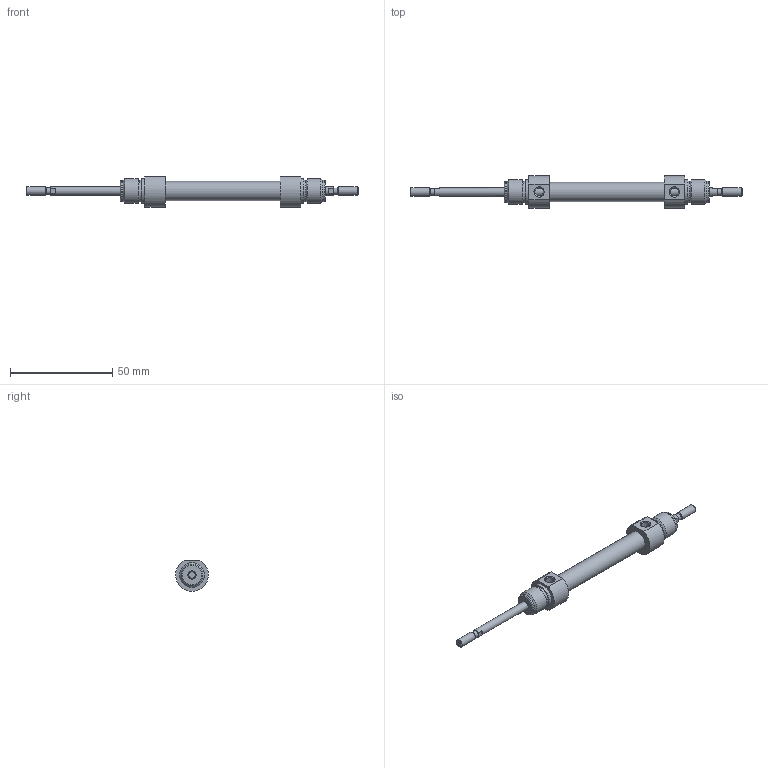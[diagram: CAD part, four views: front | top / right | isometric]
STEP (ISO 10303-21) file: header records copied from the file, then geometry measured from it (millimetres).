
FILE_DESCRIPTION( ( 'STEP AP203' ), '1' );
FILE_NAME( '//expscmdclustefs.cadenas.external/client_exchange/iodir/jobs/output/wkb68261288_no0/STEP/M101-08-0030--__0__2_03.stp', ' ', ( ' ' ), ( ' ' ), 'PSStep 15.0.47', 'PARTsolutions', ' ' );
FILE_SCHEMA( ( 'CONFIG_CONTROL_DESIGN' ) );
Length unit declared in the file: millimetre
Products named in the file (3): M101-08-0030-- [0]; HI_M101-08-0030---[0]-z; HI_M101-08-0030---[0]-k
Assembly tree (2 placements, depth 2):
  M101-08-0030-- [0]
    HI_M101-08-0030---[0]-z
    HI_M101-08-0030---[0]-k
Bounding box: 162 x 15.98 x 14.97 mm (x, y, z)
Volume: 9735.5 mm3; surface area: 8187.1 mm2
Topology: 2 solids, 2 shells, 71 faces, 145 edges, 88 vertices
Faces by surface type: plane 32, cylinder 23, cone 14, torus 2
Full cylindrical faces by diameter (mm): 3.141 x2, 4 x6, 4.134 x2, 8 x2, 9.3 x1, 10.466 x4, 12 x4
Entity records: 1838 total; most frequent: CARTESIAN_POINT 358, DIRECTION 312, ORIENTED_EDGE 212, AXIS2_PLACEMENT_3D 140, EDGE_LOOP 120, EDGE_CURVE 106, FACE_OUTER_BOUND 94, VERTEX_POINT 82
